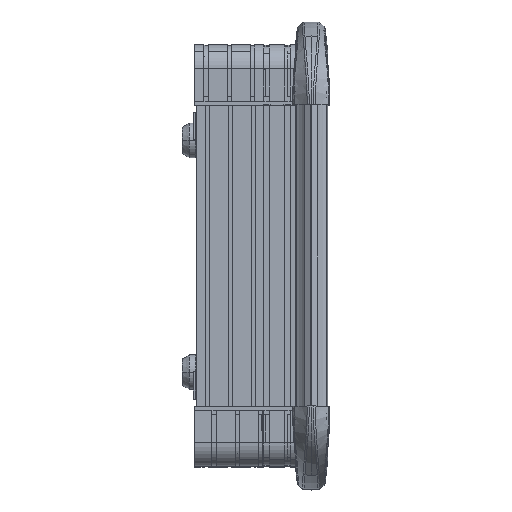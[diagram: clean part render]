
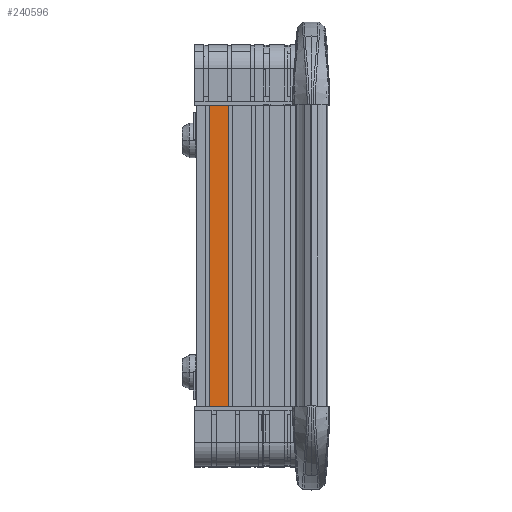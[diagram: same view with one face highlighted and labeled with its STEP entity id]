
A CAD part, top view. The second image highlights one B-rep face of the part: STEP entity #240596.
In plain terms, the highlighted planar face has unit normal (0, 0, 1).
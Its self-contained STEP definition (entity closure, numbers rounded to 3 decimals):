
#350 = VERTEX_POINT ( 'NONE', #69457 ) ;
#3730 = VERTEX_POINT ( 'NONE', #166977 ) ;
#7675 = VERTEX_POINT ( 'NONE', #113001 ) ;
#14212 = CARTESIAN_POINT ( 'NONE',  ( -13.253, 244.645, 492.404 ) ) ;
#15021 = VECTOR ( 'NONE', #123304, 1000. ) ;
#25534 = LINE ( 'NONE', #68223, #174105 ) ;
#30406 = DIRECTION ( 'NONE',  ( 0., 0., 1. ) ) ;
#31041 = LINE ( 'NONE', #14212, #218443 ) ;
#68223 = CARTESIAN_POINT ( 'NONE',  ( 43.497, 244.645, 492.404 ) ) ;
#69457 = CARTESIAN_POINT ( 'NONE',  ( -13.253, 27.475, 492.404 ) ) ;
#113001 = CARTESIAN_POINT ( 'NONE',  ( -26.923, 244.645, 492.404 ) ) ;
#116819 = DIRECTION ( 'NONE',  ( 1., 0., 0. ) ) ;
#118676 = ORIENTED_EDGE ( 'NONE', *, *, #273669, .T. ) ;
#123304 = DIRECTION ( 'NONE',  ( 0., -1., 0. ) ) ;
#128811 = DIRECTION ( 'NONE',  ( 0., -1., 0. ) ) ;
#132338 = LINE ( 'NONE', #293669, #15021 ) ;
#140465 = AXIS2_PLACEMENT_3D ( 'NONE', #252141, #30406, #128811 ) ;
#145264 = FACE_OUTER_BOUND ( 'NONE', #182235, .T. ) ;
#166977 = CARTESIAN_POINT ( 'NONE',  ( -26.923, 27.475, 492.404 ) ) ;
#174105 = VECTOR ( 'NONE', #192724, 1000. ) ;
#178030 = ORIENTED_EDGE ( 'NONE', *, *, #316026, .T. ) ;
#182235 = EDGE_LOOP ( 'NONE', ( #118676, #178030, #295945, #270169 ) ) ;
#192724 = DIRECTION ( 'NONE',  ( 1., 0., 0. ) ) ;
#193797 = CARTESIAN_POINT ( 'NONE',  ( -13.253, 244.645, 492.404 ) ) ;
#196540 = DIRECTION ( 'NONE',  ( 0., 1., 0. ) ) ;
#203018 = EDGE_CURVE ( 'NONE', #350, #289128, #31041, .T. ) ;
#210681 = EDGE_CURVE ( 'NONE', #7675, #289128, #25534, .T. ) ;
#218443 = VECTOR ( 'NONE', #196540, 1000. ) ;
#219515 = PLANE ( 'NONE',  #140465 ) ;
#240596 = ADVANCED_FACE ( 'NONE', ( #145264 ), #219515, .T. ) ;
#252141 = CARTESIAN_POINT ( 'NONE',  ( -13.253, 244.645, 492.404 ) ) ;
#266332 = CARTESIAN_POINT ( 'NONE',  ( -13.253, 27.475, 492.404 ) ) ;
#270169 = ORIENTED_EDGE ( 'NONE', *, *, #210681, .F. ) ;
#273669 = EDGE_CURVE ( 'NONE', #7675, #3730, #132338, .T. ) ;
#284432 = LINE ( 'NONE', #266332, #288501 ) ;
#288501 = VECTOR ( 'NONE', #116819, 1000. ) ;
#289128 = VERTEX_POINT ( 'NONE', #193797 ) ;
#293669 = CARTESIAN_POINT ( 'NONE',  ( -26.923, 244.645, 492.404 ) ) ;
#295945 = ORIENTED_EDGE ( 'NONE', *, *, #203018, .T. ) ;
#316026 = EDGE_CURVE ( 'NONE', #3730, #350, #284432, .T. ) ;
